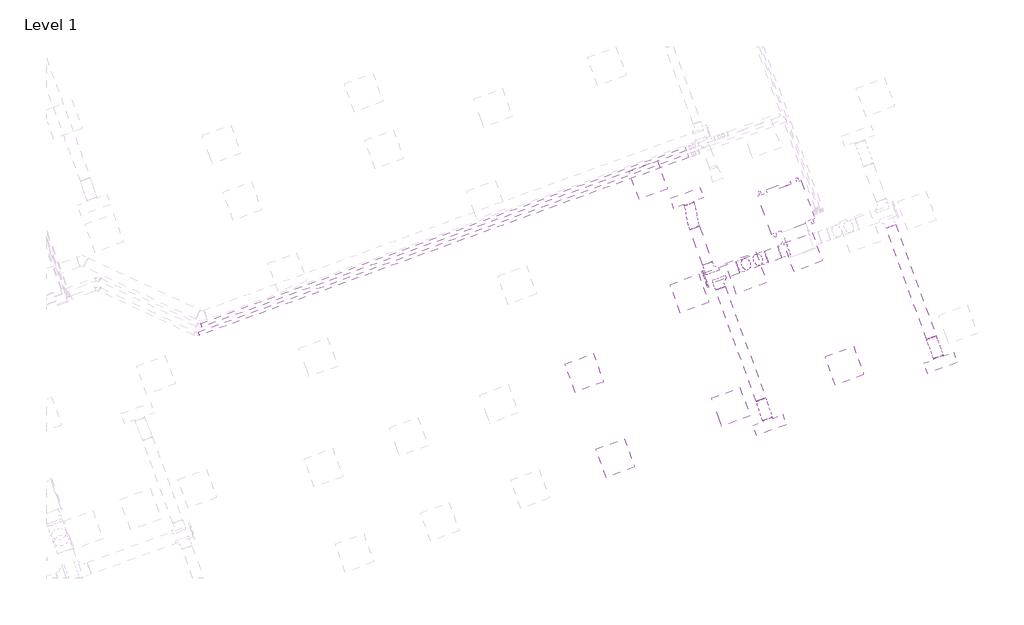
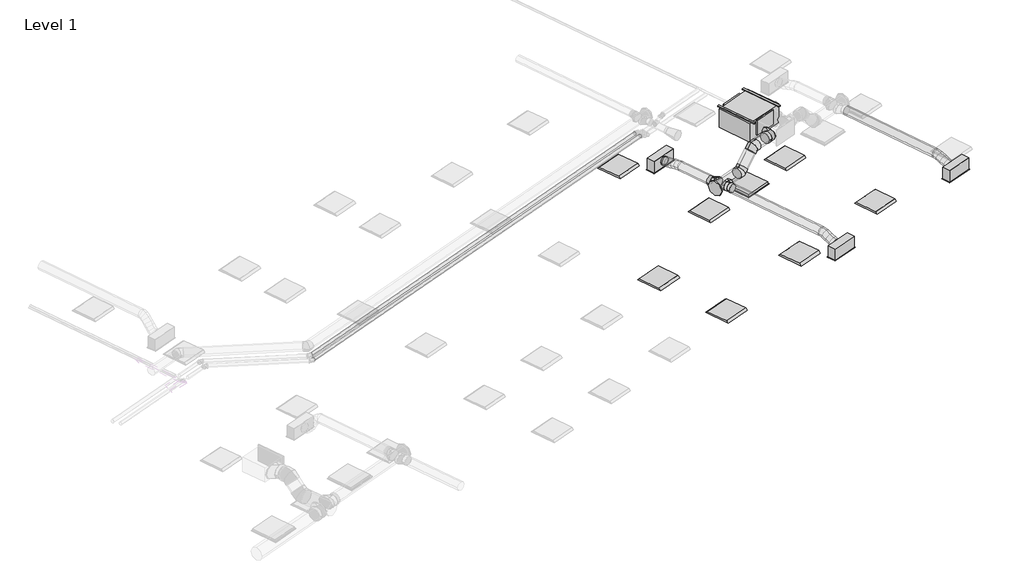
# One storey, part 25 of 30: 9 duct segments, 7 light fixtures, 6 duct fittings, 4 air terminals, 2 pipe segments, 1 proxy.
"""IFC4 building model written with IfcOpenShell, lengths in millimetres."""

from ifc_helpers import new_model, si_unit, point, frame, frame_2d, origin, place, context, project, spatial, circle_curve, ellipse_curve, trimmed, segment, composite_curve, outline, extrude, transform, mapped, element, save
from ifc_brep_helpers import plane_surface, cylinder_surface, advanced_brep
from components import return_grille_rectangular_hosted_standard_7b12617c, supply_diffuser_with_plenum_linear_slot_hosted_2b730595, fan_coil_unit_ceiling_ducted_chw_376_lps_945e770d, dw144_round_blank_end_standard_e3d0b58b, dw144_round_segmented_bend_slip_joint_standard_636bd9c1, dw144_round_shoe_branch_slip_joint1_standard_2_559552f4, dw144_round_shoe_branch_slip_joint1_standard_2_671412f0, light_fixture_1c7c1157, light_fixture_b730b5ca

model = new_model("IFC4")

# Units and contexts
model_context = context("Model", 3, world=origin())
ifc_project = project(units=[si_unit("LENGTHUNIT", "METRE", prefix="MILLI")], contexts=[model_context])

# Site, building, storey
site = spatial("IfcSite", under=ifc_project)
building = spatial("IfcBuilding", under=site)
storey = spatial("IfcBuildingStorey", under=building, Name="Level 1", Elevation=3900.0)

# Air terminals
placement = place(None, origin())
return_grille_rectangular_hosted_standard_shape = return_grille_rectangular_hosted_standard_7b12617c(model_context)
element("IfcAirTerminal", 1, ObjectType="Return Grille - Rectangular - Hosted : Standard", at=placement, inside=storey, context=model_context, shape_type="MappedRepresentation", body=[
    mapped(return_grille_rectangular_hosted_standard_shape, transform((60085.8279951, 13927.8982228, 6700.0), x_axis=(0.939692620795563, 0.3420201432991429, 0.0), y_axis=(0.3420201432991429, -0.939692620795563, 0.0), z_axis=(0.0, 0.0, -1.0))),
])
supply_diffuser_with_plenum_linear_slot_hosted_shape = supply_diffuser_with_plenum_linear_slot_hosted_2b730595(model_context)
element("IfcAirTerminal", 2, ObjectType="Supply Diffuser with Plenum - Linear Slot - Hosted : 24\" x 8\"-200 In Inlet  4-Slot", at=placement, inside=storey, context=model_context, shape_type="MappedRepresentation", body=[
    mapped(supply_diffuser_with_plenum_linear_slot_hosted_shape, transform((58909.9480529, 15418.2584463, 6700.0), x_axis=(-0.9396926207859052, -0.3420201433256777, 0.0), y_axis=(-0.3420201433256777, 0.9396926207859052, 0.0), z_axis=(0.0, 0.0, -1.0))),
])
element("IfcAirTerminal", 3, ObjectType="Supply Diffuser with Plenum - Linear Slot - Hosted : 24\" x 8\"-200 In Inlet  4-Slot", at=placement, inside=storey, context=model_context, shape_type="MappedRepresentation", body=[
    mapped(supply_diffuser_with_plenum_linear_slot_hosted_shape, transform((60551.6447408, 10907.7338665, 6700.0), x_axis=(0.939692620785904, 0.34202014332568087, 0.0), y_axis=(0.34202014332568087, -0.939692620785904, 0.0), z_axis=(0.0, 0.0, -1.0))),
])
element("IfcAirTerminal", 4, ObjectType="Supply Diffuser with Plenum - Linear Slot - Hosted : 24\" x 8\"-200 In Inlet  4-Slot", at=placement, inside=storey, context=model_context, shape_type="MappedRepresentation", body=[
    mapped(supply_diffuser_with_plenum_linear_slot_hosted_shape, transform((63945.5325789, 12143.008018, 6700.0), x_axis=(0.939692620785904, 0.34202014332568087, 0.0), y_axis=(0.34202014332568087, -0.939692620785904, 0.0), z_axis=(0.0, 0.0, -1.0))),
])

# Proxy
fan_coil_unit_ceiling_ducted_chw_376_lps_shape = fan_coil_unit_ceiling_ducted_chw_376_lps_945e770d(model_context)
element("IfcBuildingElementProxy", 5, Name="Fan Coil Unit - Ceiling Ducted - CHW : 376 LPS", ObjectType="Fan Coil Unit - Ceiling Ducted - CHW : 376 LPS", at=placement, inside=storey, context=model_context, shape_type="MappedRepresentation", body=[
    mapped(fan_coil_unit_ceiling_ducted_chw_376_lps_shape, transform((60591.3674268, 14691.8764142, 7115.575), x_axis=(0.9396926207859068, 0.34202014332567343, 0.0), y_axis=(-0.34202014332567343, 0.9396926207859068, 0.0), z_axis=(0.0, 0.0, 1.0))),
])

# Duct fittings
dw144_round_blank_end_standard_shape = dw144_round_blank_end_standard_e3d0b58b(model_context)
element("IfcDuctFitting", 6, ObjectType="DW144 Round Blank End : Standard", at=placement, inside=storey, context=model_context, shape_type="MappedRepresentation", body=[
    mapped(dw144_round_blank_end_standard_shape, transform((59281.7426902, 13810.5786489, 6972.2088531), x_axis=(-0.9396926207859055, -0.3420201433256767, 0.0), y_axis=(0.3420201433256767, -0.9396926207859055, 0.0), z_axis=(0.0, 0.0, 1.0))),
])
dw144_round_segmented_bend_slip_joint_standard_shape = dw144_round_segmented_bend_slip_joint_standard_636bd9c1(model_context)
element("IfcDuctFitting", 7, ObjectType="DW144 Round Segmented Bend - Slip Joint : Standard", at=placement, inside=storey, context=model_context, shape_type="MappedRepresentation", body=[
    mapped(dw144_round_segmented_bend_slip_joint_standard_shape, transform((60017.1840423, 14078.2574101, 6972.2088531), x_axis=(-0.6644630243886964, -0.24184476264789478, -0.7071067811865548), y_axis=(-0.6644630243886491, -0.24184476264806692, 0.7071067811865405), z_axis=(-0.34202014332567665, 0.9396926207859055, 0.0))),
])
element("IfcDuctFitting", 8, ObjectType="DW144 Round Segmented Bend - Slip Joint : Standard", at=placement, inside=storey, context=model_context, shape_type="MappedRepresentation", body=[
    mapped(dw144_round_segmented_bend_slip_joint_standard_shape, transform((60390.5860782, 14214.1646366, 7369.575), x_axis=(-0.9396926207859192, -0.3420201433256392, 0.0), y_axis=(0.0, 0.0, -1.0000000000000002), z_axis=(0.3420201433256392, -0.9396926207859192, 0.0))),
])
dw144_round_shoe_branch_slip_joint1_standard_2_shape = dw144_round_shoe_branch_slip_joint1_standard_2_559552f4(model_context)
element("IfcDuctFitting", 9, ObjectType="DW144 Round Shoe Branch - Slip Joint1 : Standard 2", at=placement, inside=storey, context=model_context, shape_type="MappedRepresentation", body=[
    mapped(dw144_round_shoe_branch_slip_joint1_standard_2_shape, transform((59369.8278219, 13975.6612364, 6972.2088531), x_axis=(-0.34202014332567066, 0.9396926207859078, 0.0), y_axis=(0.9396926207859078, 0.34202014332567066, 0.0), z_axis=(0.0, 0.0, -1.0))),
])
element("IfcDuctFitting", 10, ObjectType="DW144 Round Shoe Branch - Slip Joint1 : Standard 2", at=placement, inside=storey, context=model_context, shape_type="MappedRepresentation", body=[
    mapped(dw144_round_shoe_branch_slip_joint1_standard_2_shape, transform((59523.8850118, 13765.6890248, 6972.2088531), x_axis=(0.3420201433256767, -0.9396926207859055, 0.0), y_axis=(0.9396926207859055, 0.3420201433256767, 0.0), z_axis=(0.0, 0.0, 1.0))),
])
dw144_round_shoe_branch_slip_joint1_standard_2_2_shape = dw144_round_shoe_branch_slip_joint1_standard_2_671412f0(model_context)
element("IfcDuctFitting", 11, ObjectType="DW144 Round Shoe Branch - Slip Joint1 : Standard 2", at=placement, inside=storey, context=model_context, shape_type="MappedRepresentation", body=[
    mapped(dw144_round_shoe_branch_slip_joint1_standard_2_2_shape, transform((60916.1183876, 14405.4427543, 7369.575), x_axis=(-0.9396926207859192, -0.3420201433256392, 0.0), y_axis=(-0.3420201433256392, 0.9396926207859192, 0.0), z_axis=(0.0, 0.0, -1.0))),
])

# Duct segments
element("IfcDuctSegment", 12, ObjectType="DW144 Segmented Bend / Shoe Branch", at=placement, inside=storey, context=model_context, shape_type="SweptSolid", body=[
    extrude(outline(composite_curve([segment(trimmed(circle_curve(frame_2d((0.0, 125.0)), 125.0), [point((125.0, 125.0))], [point((0.0, 0.0))], False, "CARTESIAN"), True, "CONTINUOUS"), segment(trimmed(circle_curve(frame_2d((0.0, 125.0)), 125.0), [point((0.0, 0.0))], [point((-125.0, 125.0))], False, "CARTESIAN"), True, "CONTINUOUS"), segment(trimmed(circle_curve(frame_2d((0.0, 125.0)), 125.0), [point((-125.0, 125.0))], [point((0.0, 250.0))], False, "CARTESIAN"), True, "CONTINUOUS"), segment(trimmed(circle_curve(frame_2d((0.0, 125.0)), 125.0), [point((0.0, 250.0))], [point((125.0, 125.0))], False, "CARTESIAN"), True, "CONTINUOUS")], self_intersect=False)), frame((59281.7426902, 13810.5786489, 7097.2088531), z_axis=(0.9396926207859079, 0.3420201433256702, 0.0), x_axis=(0.3420201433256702, -0.9396926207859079, 0.0)), (0.0, 0.0, 1.0), 679.0869492),
])
element("IfcDuctSegment", 13, ObjectType="DW144 Segmented Bend / Shoe Branch", at=placement, inside=storey, context=model_context, shape_type="SweptSolid", body=[
    extrude(outline(composite_curve([segment(trimmed(circle_curve(frame_2d((0.0, -100.0)), 100.0), [point((-100.0, -100.0))], [point((0.0, 0.0))], False, "CARTESIAN"), True, "CONTINUOUS"), segment(trimmed(circle_curve(frame_2d((0.0, -100.0)), 100.0), [point((0.0, 0.0))], [point((100.0, -100.0))], False, "CARTESIAN"), True, "CONTINUOUS"), segment(trimmed(circle_curve(frame_2d((0.0, -100.0)), 100.0), [point((100.0, -100.0))], [point((0.0, -200.0))], False, "CARTESIAN"), True, "CONTINUOUS"), segment(trimmed(circle_curve(frame_2d((0.0, -100.0)), 100.0), [point((0.0, -200.0))], [point((-100.0, -100.0))], False, "CARTESIAN"), True, "CONTINUOUS")], self_intersect=False)), frame((63763.6810908, 12642.6408754, 6872.2088531), z_axis=(-0.34202014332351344, 0.9396926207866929, 0.0), x_axis=(0.9396926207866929, 0.34202014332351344, 0.0)), (0.0, 0.0, 1.0), 2355.4157214),
])
element("IfcDuctSegment", 14, ObjectType="DW144 Segmented Bend / Shoe Branch", at=placement, inside=storey, context=model_context, shape_type="SweptSolid", body=[
    extrude(outline(composite_curve([segment(trimmed(circle_curve(frame_2d((0.0, 100.0)), 100.0), [point((99.9999999, 100.0))], [point((0.0, 0.0))], False, "CARTESIAN"), True, "CONTINUOUS"), segment(trimmed(circle_curve(frame_2d((0.0, 100.0)), 100.0), [point((0.0, 0.0))], [point((-100.0, 100.0))], False, "CARTESIAN"), True, "CONTINUOUS"), segment(trimmed(circle_curve(frame_2d((0.0, 100.0)), 100.0), [point((-100.0, 100.0))], [point((0.0, 200.0))], False, "CARTESIAN"), True, "CONTINUOUS"), segment(trimmed(circle_curve(frame_2d((0.0, 100.0)), 100.0), [point((0.0, 200.0))], [point((99.9999999, 100.0))], False, "CARTESIAN"), True, "CONTINUOUS")], self_intersect=False)), frame((59318.5248004, 14116.6151296, 7072.2088531), z_axis=(-0.3420201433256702, 0.9396926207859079, 0.0), x_axis=(0.9396926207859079, 0.3420201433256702, 0.0)), (0.0, 0.0, 1.0), 750.0),
])
element("IfcDuctSegment", 15, ObjectType="DW144 Segmented Bend / Shoe Branch", at=placement, inside=storey, context=model_context, shape_type="SweptSolid", body=[
    extrude(outline(composite_curve([segment(trimmed(circle_curve(frame_2d((0.0, 100.0)), 100.0), [point((100.0, 100.0))], [point((0.0, 0.0))], False, "CARTESIAN"), True, "CONTINUOUS"), segment(trimmed(circle_curve(frame_2d((0.0, 100.0)), 100.0), [point((0.0, 0.0))], [point((-99.9999999, 100.0))], False, "CARTESIAN"), True, "CONTINUOUS"), segment(trimmed(circle_curve(frame_2d((0.0, 100.0)), 100.0), [point((-99.9999999, 100.0))], [point((0.0, 200.0))], False, "CARTESIAN"), True, "CONTINUOUS"), segment(trimmed(circle_curve(frame_2d((0.0, 100.0)), 100.0), [point((0.0, 200.0))], [point((100.0, 100.0))], False, "CARTESIAN"), True, "CONTINUOUS")], self_intersect=False)), frame((60380.7876559, 11411.3683594, 7072.2088531), z_axis=(-0.34202014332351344, 0.9396926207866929, 0.0), x_axis=(0.9396926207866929, 0.34202014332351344, 0.0)), (0.0, 0.0, 1.0), 2355.4157214),
])
element("IfcDuctSegment", 16, ObjectType="DW144 Segmented Bend / Shoe Branch", at=placement, inside=storey, context=model_context, shape_type="SweptSolid", body=[
    extrude(outline(composite_curve([segment(trimmed(circle_curve(frame_2d((0.0, -125.0)), 125.0), [point((-125.0, -125.0))], [point((0.0, 0.0))], False, "CARTESIAN"), True, "CONTINUOUS"), segment(trimmed(circle_curve(frame_2d((0.0, -125.0)), 125.0), [point((0.0, 0.0))], [point((125.0, -125.0))], False, "CARTESIAN"), True, "CONTINUOUS"), segment(trimmed(circle_curve(frame_2d((0.0, -125.0)), 125.0), [point((125.0, -125.0))], [point((0.0, -250.0))], False, "CARTESIAN"), True, "CONTINUOUS"), segment(trimmed(circle_curve(frame_2d((0.0, -125.0)), 125.0), [point((0.0, -250.0))], [point((-125.0, -125.0))], False, "CARTESIAN"), True, "CONTINUOUS")], self_intersect=False)), frame((60487.8944352, 14249.5819821, 7244.575), z_axis=(0.9396926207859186, 0.3420201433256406, 0.0), x_axis=(0.3420201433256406, -0.9396926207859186, 0.0)), (0.0, 0.0, 1.0), 280.7064117),
])
element("IfcDuctSegment", 17, ObjectType="DW144 Segmented Bend / Shoe Branch", at=placement, inside=storey, context=model_context, shape_type="SweptSolid", body=[
    extrude(outline(composite_curve([segment(trimmed(circle_curve(frame_2d((0.0, -125.0)), 125.0), [point((-57.2076922, -13.8591887))], [point((111.1408113, -67.7923077))], False, "CARTESIAN"), True, "CONTINUOUS"), segment(trimmed(circle_curve(frame_2d((0.0, -125.0)), 125.0), [point((111.1408113, -67.7923077))], [point((57.2076923, -236.1408114))], False, "CARTESIAN"), True, "CONTINUOUS"), segment(trimmed(circle_curve(frame_2d((0.0, -125.0)), 125.0), [point((57.2076923, -236.1408114))], [point((-111.1408114, -182.2076923))], False, "CARTESIAN"), True, "CONTINUOUS"), segment(trimmed(circle_curve(frame_2d((0.0, -125.0)), 125.0), [point((-111.1408114, -182.2076923))], [point((-57.2076922, -13.8591887))], False, "CARTESIAN"), True, "CONTINUOUS")], self_intersect=False)), frame((60085.9914414, 14221.5748363, 7004.9802107), z_axis=(0.6644630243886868, 0.24184476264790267, 0.7071067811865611), x_axis=(0.7473211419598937, -0.21503058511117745, -0.6287073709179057)), (0.0, 0.0, 1.0), 354.8538129),
])
element("IfcDuctSegment", 18, ObjectType="Flex - Round", at=placement, inside=storey, context=model_context, shape_type="AdvancedBrep", body=[
    advanced_brep(
    [(58968.0404308, 14787.1825808, 6972.2088531), (59062.0096929, 14821.3845951, 6872.2088531), (59155.9789549, 14855.5866095, 6972.2088531), (59062.0096929, 14821.3845951, 7072.2088531), (58962.5937503, 14802.1472125, 6972.2088531), (59060.2166004, 14826.3110763, 6872.2088531), (59153.0318582, 14863.6836912, 6972.2088531), (59055.4090081, 14839.5198274, 7072.2088531), (58859.415349, 15264.7154691, 6854.4), (58953.3846111, 15298.9174834, 6954.4), (59047.3538732, 15333.1194978, 6854.4), (58953.3846111, 15298.9174834, 6754.4), (58936.9027426, 14892.9748972, 6958.8929759), (59040.5253746, 14895.9272029, 6862.0027161), (59131.445571, 14939.9995957, 6961.0204889), (59027.822939, 14937.0472899, 7057.9107487), (58917.2478202, 14993.7337874, 6928.1346787), (59023.750444, 14981.9221185, 6835.7513633), (59113.7609804, 15030.6577872, 6933.345595), (59007.2583566, 15042.4694561, 7025.7289103), (58901.6333235, 15089.6442914, 6893.2632582), (59008.1359473, 15077.8326225, 6800.8799428), (59098.1464837, 15126.5682912, 6898.4741745), (58991.64386, 15138.3799601, 6990.8574898), (58883.9487329, 15180.3024829, 6865.5883642), (58987.5713649, 15183.2547887, 6768.6981044), (59078.4915613, 15227.3271814, 6867.7158773), (58974.8689293, 15224.3748757, 6964.606137), (58862.3624457, 15256.6183874, 6854.4), (58959.9852958, 15280.7822512, 6754.4), (59052.8005537, 15318.1548661, 6854.4), (58955.1777036, 15293.9910023, 6954.4)],
    [
        (0, 1, circle_curve(frame((59062.0096929, 14821.3845951, 6972.2088531), z_axis=(0.34202014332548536, -0.9396926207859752, 0.0), x_axis=(-0.9396926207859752, -0.34202014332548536, 0.0)), 100.0)),
        (1, 2, circle_curve(frame((59062.0096929, 14821.3845951, 6972.2088531), z_axis=(0.34202014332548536, -0.9396926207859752, 0.0), x_axis=(-0.9396926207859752, -0.34202014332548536, 0.0)), 100.0)),
        (2, 3, circle_curve(frame((59062.0096929, 14821.3845951, 6972.2088531), z_axis=(0.34202014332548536, -0.9396926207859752, 0.0), x_axis=(-0.9396926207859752, -0.34202014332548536, 0.0)), 100.0)),
        (3, 0, circle_curve(frame((59062.0096929, 14821.3845951, 6972.2088531), z_axis=(0.34202014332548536, -0.9396926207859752, 0.0), x_axis=(-0.9396926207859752, -0.34202014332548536, 0.0)), 100.0)),
        (0, 4),
        (4, 5, ellipse_curve(frame((59057.8128042, 14832.9154519, 6972.2088531), z_axis=(0.3067215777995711, -0.9492170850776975, 0.07006282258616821), x_axis=(0.45913462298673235, 0.08307664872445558, -0.8844736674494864)), 100.3132534, 100.0)),
        (5, 1),
        (5, 6, ellipse_curve(frame((59057.8128042, 14832.9154519, 6972.2088531), z_axis=(0.3067215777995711, -0.9492170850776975, 0.07006282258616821), x_axis=(0.45913462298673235, 0.08307664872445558, -0.8844736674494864)), 100.3132534, 100.0)),
        (6, 2),
        (6, 7, ellipse_curve(frame((59057.8128042, 14832.9154519, 6972.2088531), z_axis=(0.3067215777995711, -0.9492170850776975, 0.07006282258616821), x_axis=(0.45913462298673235, 0.08307664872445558, -0.8844736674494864)), 100.3132534, 100.0)),
        (7, 3),
        (7, 4, ellipse_curve(frame((59057.8128042, 14832.9154519, 6972.2088531), z_axis=(0.3067215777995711, -0.9492170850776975, 0.07006282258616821), x_axis=(0.45913462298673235, 0.08307664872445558, -0.8844736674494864)), 100.3132534, 100.0)),
        (8, 9, circle_curve(frame((58953.3846111, 15298.9174834, 6854.4), z_axis=(-0.3420201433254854, 0.9396926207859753, 0.0), x_axis=(-0.9396926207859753, -0.3420201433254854, 0.0)), 100.0)),
        (9, 10, circle_curve(frame((58953.3846111, 15298.9174834, 6854.4), z_axis=(-0.3420201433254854, 0.9396926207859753, 0.0), x_axis=(-0.9396926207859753, -0.3420201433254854, 0.0)), 100.0)),
        (10, 11, circle_curve(frame((58953.3846111, 15298.9174834, 6854.4), z_axis=(-0.3420201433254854, 0.9396926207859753, 0.0), x_axis=(-0.9396926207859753, -0.3420201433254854, 0.0)), 100.0)),
        (11, 8, circle_curve(frame((58953.3846111, 15298.9174834, 6854.4), z_axis=(-0.3420201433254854, 0.9396926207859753, 0.0), x_axis=(-0.9396926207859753, -0.3420201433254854, 0.0)), 100.0)),
        (4, 12),
        (12, 13, ellipse_curve(frame((59034.1741568, 14916.4872464, 6959.9567324), z_axis=(0.22728942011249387, -0.9499923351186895, 0.21413566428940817), x_axis=(0.5032119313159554, -0.07368424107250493, -0.8610159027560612)), 100.3679871, 100.0)),
        (13, 5),
        (13, 14, ellipse_curve(frame((59034.1741568, 14916.4872464, 6959.9567324), z_axis=(0.22728942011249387, -0.9499923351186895, 0.21413566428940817), x_axis=(0.5032119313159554, -0.07368424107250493, -0.8610159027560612)), 100.3679871, 100.0)),
        (14, 6),
        (14, 15, ellipse_curve(frame((59034.1741568, 14916.4872464, 6959.9567324), z_axis=(0.22728942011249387, -0.9499923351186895, 0.21413566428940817), x_axis=(0.5032119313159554, -0.07368424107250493, -0.8610159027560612)), 100.3679871, 100.0)),
        (15, 7),
        (15, 12, ellipse_curve(frame((59034.1741568, 14916.4872464, 6959.9567324), z_axis=(0.22728942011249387, -0.9499923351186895, 0.21413566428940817), x_axis=(0.5032119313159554, -0.07368424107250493, -0.8610159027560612)), 100.3679871, 100.0)),
        (12, 16),
        (16, 17, ellipse_curve(frame((59015.5044003, 15012.1957873, 6930.7401368), z_axis=(0.16740236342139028, -0.9350387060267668, 0.3125365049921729), x_axis=(0.5261740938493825, -0.1833505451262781, -0.8303754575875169)), 100.0467328, 100.0)),
        (17, 13),
        (17, 18, ellipse_curve(frame((59015.5044003, 15012.1957873, 6930.7401368), z_axis=(0.16740236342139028, -0.9350387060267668, 0.3125365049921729), x_axis=(0.5261740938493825, -0.1833505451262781, -0.8303754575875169)), 100.0467328, 100.0)),
        (18, 14),
        (18, 19, ellipse_curve(frame((59015.5044003, 15012.1957873, 6930.7401368), z_axis=(0.16740236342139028, -0.9350387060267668, 0.3125365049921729), x_axis=(0.5261740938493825, -0.1833505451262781, -0.8303754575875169)), 100.0467328, 100.0)),
        (19, 15),
        (19, 16, ellipse_curve(frame((59015.5044003, 15012.1957873, 6930.7401368), z_axis=(0.16740236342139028, -0.9350387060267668, 0.3125365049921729), x_axis=(0.5261740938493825, -0.1833505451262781, -0.8303754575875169)), 100.0467328, 100.0)),
        (16, 20),
        (20, 21, ellipse_curve(frame((58999.8899036, 15108.1062913, 6895.8687163), z_axis=(0.16740236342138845, -0.9350387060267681, 0.31253650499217), x_axis=(-0.5261740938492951, 0.18335054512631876, 0.8303754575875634)), 100.0467328, 100.0)),
        (21, 17),
        (21, 22, ellipse_curve(frame((58999.8899036, 15108.1062913, 6895.8687163), z_axis=(0.16740236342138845, -0.9350387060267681, 0.31253650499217), x_axis=(-0.5261740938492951, 0.18335054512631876, 0.8303754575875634)), 100.0467328, 100.0)),
        (22, 18),
        (22, 23, ellipse_curve(frame((58999.8899036, 15108.1062913, 6895.8687163), z_axis=(0.16740236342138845, -0.9350387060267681, 0.31253650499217), x_axis=(-0.5261740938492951, 0.18335054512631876, 0.8303754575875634)), 100.0467328, 100.0)),
        (23, 19),
        (23, 20, ellipse_curve(frame((58999.8899036, 15108.1062913, 6895.8687163), z_axis=(0.16740236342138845, -0.9350387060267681, 0.31253650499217), x_axis=(-0.5261740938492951, 0.18335054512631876, 0.8303754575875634)), 100.0467328, 100.0)),
        (20, 24),
        (24, 25, ellipse_curve(frame((58981.2201471, 15203.8148322, 6866.6521207), z_axis=(0.22728942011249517, -0.9499923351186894, 0.2141356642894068), x_axis=(-0.5032119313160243, 0.07368424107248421, 0.8610159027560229)), 100.3679871, 100.0)),
        (25, 21),
        (25, 26, ellipse_curve(frame((58981.2201471, 15203.8148322, 6866.6521207), z_axis=(0.22728942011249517, -0.9499923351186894, 0.2141356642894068), x_axis=(-0.5032119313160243, 0.07368424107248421, 0.8610159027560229)), 100.3679871, 100.0)),
        (26, 22),
        (26, 27, ellipse_curve(frame((58981.2201471, 15203.8148322, 6866.6521207), z_axis=(0.22728942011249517, -0.9499923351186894, 0.2141356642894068), x_axis=(-0.5032119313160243, 0.07368424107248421, 0.8610159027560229)), 100.3679871, 100.0)),
        (27, 23),
        (27, 24, ellipse_curve(frame((58981.2201471, 15203.8148322, 6866.6521207), z_axis=(0.22728942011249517, -0.9499923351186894, 0.2141356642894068), x_axis=(-0.5032119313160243, 0.07368424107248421, 0.8610159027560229)), 100.3679871, 100.0)),
        (24, 28),
        (28, 29, ellipse_curve(frame((58957.5814997, 15287.3866267, 6854.4), z_axis=(0.30672157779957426, -0.9492170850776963, 0.07006282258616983), x_axis=(-0.45913462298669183, -0.0830766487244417, 0.8844736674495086)), 100.3132534, 100.0)),
        (29, 25),
        (29, 30, ellipse_curve(frame((58957.5814997, 15287.3866267, 6854.4), z_axis=(0.30672157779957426, -0.9492170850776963, 0.07006282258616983), x_axis=(-0.45913462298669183, -0.0830766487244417, 0.8844736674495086)), 100.3132534, 100.0)),
        (30, 26),
        (30, 31, ellipse_curve(frame((58957.5814997, 15287.3866267, 6854.4), z_axis=(0.30672157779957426, -0.9492170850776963, 0.07006282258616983), x_axis=(-0.45913462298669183, -0.0830766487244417, 0.8844736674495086)), 100.3132534, 100.0)),
        (31, 27),
        (31, 28, ellipse_curve(frame((58957.5814997, 15287.3866267, 6854.4), z_axis=(0.30672157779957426, -0.9492170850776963, 0.07006282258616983), x_axis=(-0.45913462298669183, -0.0830766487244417, 0.8844736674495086)), 100.3132534, 100.0)),
        (28, 8),
        (11, 29),
        (10, 30),
        (9, 31),
    ],
    [
        plane_surface(frame((59062.0096929, 14821.3845951, 7072.2088531), z_axis=(0.3420201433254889, -0.9396926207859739, 0.0), x_axis=(0.9396926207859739, 0.3420201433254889, 0.0))),
        cylinder_surface(frame((59062.0096929, 14821.3845951, 6972.2088531), z_axis=(0.34202014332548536, -0.9396926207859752, 0.0), x_axis=(-0.9396926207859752, -0.34202014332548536, 0.0)), 100.0),
        plane_surface(frame((58953.3846111, 15298.9174834, 6954.4), z_axis=(-0.3420201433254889, 0.9396926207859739, 0.0), x_axis=(0.9396926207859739, 0.3420201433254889, 0.0))),
        cylinder_surface(frame((59057.8128042, 14832.9154519, 6972.2088531), z_axis=(0.26950738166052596, -0.9528132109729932, 0.1396880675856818), x_axis=(-0.9620387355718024, -0.27286519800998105, -0.00510440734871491)), 100.0),
        cylinder_surface(frame((59034.1741568, 14916.4872464, 6959.9567324), z_axis=(0.18340480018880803, -0.9402053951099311, 0.28701305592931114), x_axis=(-0.9799789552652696, -0.19788119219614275, -0.022006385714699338)), 100.0),
        cylinder_surface(frame((59015.5044003, 15012.1957873, 6930.7401368), z_axis=(0.15124353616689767, -0.9289984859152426, 0.33776797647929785), x_axis=(-0.9846990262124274, -0.17151687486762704, -0.030818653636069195)), 100.0),
        cylinder_surface(frame((58999.8899036, 15108.1062913, 6895.8687163), z_axis=(0.18340480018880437, -0.9402053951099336, 0.2870130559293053), x_axis=(-0.9799789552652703, -0.19788119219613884, -0.022006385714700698)), 100.0),
        cylinder_surface(frame((58981.2201471, 15203.8148322, 6866.6521207), z_axis=(0.26950738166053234, -0.952813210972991, 0.13968806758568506), x_axis=(-0.9620387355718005, -0.2728651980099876, -0.0051044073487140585)), 100.0),
        cylinder_surface(frame((58957.5814997, 15287.3866267, 6854.4), z_axis=(0.3420201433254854, -0.9396926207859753, 0.0), x_axis=(-0.9396926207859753, -0.3420201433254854, 0.0)), 100.0),
    ],
    [
        (0, [[1, 2, 3, 4]]),
        (1, [[-1, 5, 6, 7]]),
        (1, [[-2, -7, 8, 9]]),
        (1, [[-3, -9, 10, 11]]),
        (1, [[-4, -11, 12, -5]]),
        (2, [[13, 14, 15, 16]]),
        (3, [[-6, 17, 18, 19]]),
        (3, [[-8, -19, 20, 21]]),
        (3, [[-10, -21, 22, 23]]),
        (3, [[-12, -23, 24, -17]]),
        (4, [[-18, 25, 26, 27]]),
        (4, [[-20, -27, 28, 29]]),
        (4, [[-22, -29, 30, 31]]),
        (4, [[-24, -31, 32, -25]]),
        (5, [[-26, 33, 34, 35]]),
        (5, [[-28, -35, 36, 37]]),
        (5, [[-30, -37, 38, 39]]),
        (5, [[-32, -39, 40, -33]]),
        (6, [[-34, 41, 42, 43]]),
        (6, [[-36, -43, 44, 45]]),
        (6, [[-38, -45, 46, 47]]),
        (6, [[-40, -47, 48, -41]]),
        (7, [[-42, 49, 50, 51]]),
        (7, [[-44, -51, 52, 53]]),
        (7, [[-46, -53, 54, 55]]),
        (7, [[-48, -55, 56, -49]]),
        (8, [[-50, 57, -16, 58]]),
        (8, [[-52, -58, -15, 59]]),
        (8, [[-54, -59, -14, 60]]),
        (8, [[-56, -60, -13, -57]]),
    ],
),
])
element("IfcDuctSegment", 19, ObjectType="Flex - Round", at=placement, inside=storey, context=model_context, shape_type="AdvancedBrep", body=[
    advanced_brep(
    [(60474.756918, 11445.5703738, 6972.2088531), (60380.7876559, 11411.3683594, 6872.2088531), (60286.8183939, 11377.1663451, 6972.2088531), (60380.7876559, 11411.3683594, 7072.2088531), (60481.1493986, 11428.0071778, 6972.2088531), (60383.1622942, 11404.8440944, 6872.2088531), (60292.4849201, 11361.5976921, 6972.2088531), (60390.4720245, 11384.7607754, 7072.2088531), (60602.1774447, 11061.2768437, 6854.4), (60508.2081826, 11027.0748294, 6954.4), (60414.2389206, 10992.872815, 6854.4), (60508.2081826, 11027.0748294, 6754.4), (60509.1544546, 11345.6008463, 6953.3948712), (60404.4720792, 11342.1389457, 6857.8927986), (60319.280257, 11282.751022, 6954.2075685), (60423.9626325, 11286.2129226, 7049.7096411), (60539.6776323, 11249.8857126, 6912.5736092), (60432.3097282, 11254.8451413, 6820.6631242), (60349.3182063, 11188.5574762, 6914.035244), (60456.6861104, 11183.5980475, 7005.9457289), (60569.7155815, 11155.6921668, 6872.4012846), (60465.0332061, 11152.2302661, 6776.899212), (60379.841384, 11092.8423425, 6873.213982), (60484.5237594, 11096.3042431, 6968.7160546), (60596.5109184, 11076.8454967, 6854.4), (60498.5238141, 11053.6824133, 6754.4), (60407.84644, 11010.436011, 6854.4), (60505.8335444, 11033.5990943, 6954.4)],
    [
        (0, 1, circle_curve(frame((60380.7876559, 11411.3683594, 6972.2088531), z_axis=(-0.34202014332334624, 0.9396926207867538, 0.0), x_axis=(0.9396926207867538, 0.34202014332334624, 0.0)), 100.0)),
        (1, 2, circle_curve(frame((60380.7876559, 11411.3683594, 6972.2088531), z_axis=(-0.34202014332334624, 0.9396926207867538, 0.0), x_axis=(0.9396926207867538, 0.34202014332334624, 0.0)), 100.0)),
        (2, 3, circle_curve(frame((60380.7876559, 11411.3683594, 6972.2088531), z_axis=(-0.34202014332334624, 0.9396926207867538, 0.0), x_axis=(0.9396926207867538, 0.34202014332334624, 0.0)), 100.0)),
        (3, 0, circle_curve(frame((60380.7876559, 11411.3683594, 6972.2088531), z_axis=(-0.34202014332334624, 0.9396926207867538, 0.0), x_axis=(0.9396926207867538, 0.34202014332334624, 0.0)), 100.0)),
        (0, 4),
        (4, 5, ellipse_curve(frame((60386.8171594, 11394.8024349, 6972.2088531), z_axis=(-0.3301492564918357, 0.9379298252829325, 0.1062502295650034), x_axis=(-0.1288548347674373, 0.06672604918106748, -0.9894160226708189)), 100.5749435, 100.0)),
        (5, 1),
        (5, 6, ellipse_curve(frame((60386.8171594, 11394.8024349, 6972.2088531), z_axis=(-0.3301492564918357, 0.9379298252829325, 0.1062502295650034), x_axis=(-0.1288548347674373, 0.06672604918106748, -0.9894160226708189)), 100.5749435, 100.0)),
        (6, 2),
        (6, 7, ellipse_curve(frame((60386.8171594, 11394.8024349, 6972.2088531), z_axis=(-0.3301492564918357, 0.9379298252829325, 0.1062502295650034), x_axis=(-0.1288548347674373, 0.06672604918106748, -0.9894160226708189)), 100.5749435, 100.0)),
        (7, 3),
        (7, 4, ellipse_curve(frame((60386.8171594, 11394.8024349, 6972.2088531), z_axis=(-0.3301492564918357, 0.9379298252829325, 0.1062502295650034), x_axis=(-0.1288548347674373, 0.06672604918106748, -0.9894160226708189)), 100.5749435, 100.0)),
        (8, 9, circle_curve(frame((60508.2081826, 11027.0748294, 6854.4), z_axis=(0.34202014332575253, -0.9396926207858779, 0.0), x_axis=(0.9396926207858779, 0.34202014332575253, 0.0)), 100.0)),
        (9, 10, circle_curve(frame((60508.2081826, 11027.0748294, 6854.4), z_axis=(0.34202014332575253, -0.9396926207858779, 0.0), x_axis=(0.9396926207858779, 0.34202014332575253, 0.0)), 100.0)),
        (10, 11, circle_curve(frame((60508.2081826, 11027.0748294, 6854.4), z_axis=(0.34202014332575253, -0.9396926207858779, 0.0), x_axis=(0.9396926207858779, 0.34202014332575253, 0.0)), 100.0)),
        (11, 8, circle_curve(frame((60508.2081826, 11027.0748294, 6854.4), z_axis=(0.34202014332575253, -0.9396926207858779, 0.0), x_axis=(0.9396926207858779, 0.34202014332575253, 0.0)), 100.0)),
        (4, 12),
        (12, 13, ellipse_curve(frame((60414.2173558, 11314.1759342, 6953.8012198), z_axis=(-0.2991195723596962, 0.9074777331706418, 0.2949773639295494), x_axis=(-0.19007782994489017, 0.2462699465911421, -0.9503796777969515)), 100.3796227, 100.0)),
        (13, 5),
        (13, 14, ellipse_curve(frame((60414.2173558, 11314.1759342, 6953.8012198), z_axis=(-0.2991195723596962, 0.9074777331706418, 0.2949773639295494), x_axis=(-0.19007782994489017, 0.2462699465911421, -0.9503796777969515)), 100.3796227, 100.0)),
        (14, 6),
        (14, 15, ellipse_curve(frame((60414.2173558, 11314.1759342, 6953.8012198), z_axis=(-0.2991195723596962, 0.9074777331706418, 0.2949773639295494), x_axis=(-0.19007782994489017, 0.2462699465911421, -0.9503796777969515)), 100.3796227, 100.0)),
        (15, 7),
        (15, 12, ellipse_curve(frame((60414.2173558, 11314.1759342, 6953.8012198), z_axis=(-0.2991195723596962, 0.9074777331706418, 0.2949773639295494), x_axis=(-0.19007782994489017, 0.2462699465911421, -0.9503796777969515)), 100.3796227, 100.0)),
        (12, 16),
        (16, 17, circle_curve(frame((60444.4979193, 11219.2215944, 6913.3044266), z_axis=(-0.28147295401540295, 0.8826479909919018, 0.37643791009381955), x_axis=(0.9517971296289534, 0.30664118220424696, -0.007308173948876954)), 100.0)),
        (17, 13),
        (17, 18, circle_curve(frame((60444.4979193, 11219.2215944, 6913.3044266), z_axis=(-0.28147295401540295, 0.8826479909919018, 0.37643791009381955), x_axis=(0.9517971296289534, 0.30664118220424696, -0.007308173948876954)), 100.0)),
        (18, 14),
        (18, 19, circle_curve(frame((60444.4979193, 11219.2215944, 6913.3044266), z_axis=(-0.28147295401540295, 0.8826479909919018, 0.37643791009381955), x_axis=(0.9517971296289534, 0.30664118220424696, -0.007308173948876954)), 100.0)),
        (19, 15),
        (19, 16, circle_curve(frame((60444.4979193, 11219.2215944, 6913.3044266), z_axis=(-0.28147295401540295, 0.8826479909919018, 0.37643791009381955), x_axis=(0.9517971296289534, 0.30664118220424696, -0.007308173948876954)), 100.0)),
        (16, 20),
        (20, 21, ellipse_curve(frame((60474.7784828, 11124.2672546, 6872.8076333), z_axis=(-0.2991195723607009, 0.9074777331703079, 0.29497736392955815), x_axis=(0.19007782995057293, -0.24626994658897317, 0.9503796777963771)), 100.3796227, 100.0)),
        (21, 17),
        (21, 22, ellipse_curve(frame((60474.7784828, 11124.2672546, 6872.8076333), z_axis=(-0.2991195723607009, 0.9074777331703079, 0.29497736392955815), x_axis=(0.19007782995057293, -0.24626994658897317, 0.9503796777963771)), 100.3796227, 100.0)),
        (22, 18),
        (22, 23, ellipse_curve(frame((60474.7784828, 11124.2672546, 6872.8076333), z_axis=(-0.2991195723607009, 0.9074777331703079, 0.29497736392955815), x_axis=(0.19007782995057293, -0.24626994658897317, 0.9503796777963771)), 100.3796227, 100.0)),
        (23, 19),
        (23, 20, ellipse_curve(frame((60474.7784828, 11124.2672546, 6872.8076333), z_axis=(-0.2991195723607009, 0.9074777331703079, 0.29497736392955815), x_axis=(0.19007782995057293, -0.24626994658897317, 0.9503796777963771)), 100.3796227, 100.0)),
        (20, 24),
        (24, 25, ellipse_curve(frame((60502.1786792, 11043.6407538, 6854.4), z_axis=(-0.3301492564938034, 0.9379298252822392, 0.10625022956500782), x_axis=(0.12885483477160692, -0.06672604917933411, 0.9894160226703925)), 100.5749435, 100.0)),
        (25, 21),
        (25, 26, ellipse_curve(frame((60502.1786792, 11043.6407538, 6854.4), z_axis=(-0.3301492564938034, 0.9379298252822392, 0.10625022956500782), x_axis=(0.12885483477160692, -0.06672604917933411, 0.9894160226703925)), 100.5749435, 100.0)),
        (26, 22),
        (26, 27, ellipse_curve(frame((60502.1786792, 11043.6407538, 6854.4), z_axis=(-0.3301492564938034, 0.9379298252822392, 0.10625022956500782), x_axis=(0.12885483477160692, -0.06672604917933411, 0.9894160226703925)), 100.5749435, 100.0)),
        (27, 23),
        (27, 24, ellipse_curve(frame((60502.1786792, 11043.6407538, 6854.4), z_axis=(-0.3301492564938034, 0.9379298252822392, 0.10625022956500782), x_axis=(0.12885483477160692, -0.06672604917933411, 0.9894160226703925)), 100.5749435, 100.0)),
        (24, 8),
        (11, 25),
        (10, 26),
        (9, 27),
    ],
    [
        plane_surface(frame((60380.7876559, 11411.3683594, 6872.2088531), z_axis=(-0.34202014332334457, 0.9396926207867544, 0.0), x_axis=(0.9396926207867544, 0.34202014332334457, 0.0))),
        cylinder_surface(frame((60380.7876559, 11411.3683594, 6972.2088531), z_axis=(-0.34202014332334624, 0.9396926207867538, 0.0), x_axis=(0.9396926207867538, 0.34202014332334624, 0.0)), 100.0),
        plane_surface(frame((60508.2081826, 11027.0748294, 6754.4), z_axis=(0.34202014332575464, -0.9396926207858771, 0.0), x_axis=(0.9396926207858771, 0.34202014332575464, 0.0))),
        cylinder_surface(frame((60386.8171594, 11394.8024349, 6972.2088531), z_axis=(-0.3145037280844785, 0.9254435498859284, 0.21128568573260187), x_axis=(0.9466601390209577, 0.3222259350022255, -0.00224232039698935)), 100.0),
        cylinder_surface(frame((60414.2173558, 11314.1759342, 6953.8012198), z_axis=(-0.28147295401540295, 0.8826479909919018, 0.37643791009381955), x_axis=(0.9517971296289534, 0.30664118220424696, -0.007308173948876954)), 100.0),
        cylinder_surface(frame((60444.4979193, 11219.2215944, 6913.3044266), z_axis=(-0.28147295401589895, 0.8826479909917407, 0.37643791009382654), x_axis=(0.9517971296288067, 0.3066411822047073, -0.007308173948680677)), 100.0),
        cylinder_surface(frame((60474.7784828, 11124.2672546, 6872.8076333), z_axis=(-0.31450372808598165, 0.9254435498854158, 0.21128568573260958), x_axis=(0.946660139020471, 0.32222593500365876, -0.0022423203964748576)), 100.0),
        cylinder_surface(frame((60502.1786792, 11043.6407538, 6854.4), z_axis=(-0.34202014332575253, 0.9396926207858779, 0.0), x_axis=(0.9396926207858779, 0.34202014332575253, 0.0)), 100.0),
    ],
    [
        (0, [[1, 2, 3, 4]]),
        (1, [[-1, 5, 6, 7]]),
        (1, [[-2, -7, 8, 9]]),
        (1, [[-3, -9, 10, 11]]),
        (1, [[-4, -11, 12, -5]]),
        (2, [[13, 14, 15, 16]]),
        (3, [[-6, 17, 18, 19]]),
        (3, [[-8, -19, 20, 21]]),
        (3, [[-10, -21, 22, 23]]),
        (3, [[-12, -23, 24, -17]]),
        (4, [[-18, 25, 26, 27]]),
        (4, [[-20, -27, 28, 29]]),
        (4, [[-22, -29, 30, 31]]),
        (4, [[-24, -31, 32, -25]]),
        (5, [[-26, 33, 34, 35]]),
        (5, [[-28, -35, 36, 37]]),
        (5, [[-30, -37, 38, 39]]),
        (5, [[-32, -39, 40, -33]]),
        (6, [[-34, 41, 42, 43]]),
        (6, [[-36, -43, 44, 45]]),
        (6, [[-38, -45, 46, 47]]),
        (6, [[-40, -47, 48, -41]]),
        (7, [[-42, 49, -16, 50]]),
        (7, [[-44, -50, -15, 51]]),
        (7, [[-46, -51, -14, 52]]),
        (7, [[-48, -52, -13, -49]]),
    ],
),
])
element("IfcDuctSegment", 20, ObjectType="Flex - Round", at=placement, inside=storey, context=model_context, shape_type="AdvancedBrep", body=[
    advanced_brep(
    [(63857.6503529, 12676.8428897, 6972.2088531), (63763.6810908, 12642.6408754, 6872.2088531), (63669.7118287, 12608.4388611, 6972.2088531), (63763.6810908, 12642.6408754, 7072.2088531), (63863.6816461, 12660.2720476, 6972.2088531), (63766.0562533, 12636.11517, 6872.2088531), (63675.743122, 12591.868019, 6972.2088531), (63773.3685148, 12616.0248966, 7072.2088531), (63996.0652828, 12296.5509952, 6854.4), (63902.0960207, 12262.3489809, 6954.4), (63808.1267586, 12228.1469665, 6854.4), (63902.0960207, 12262.3489809, 6754.4), (63892.7927224, 12580.2900228, 6953.8012198), (63788.6917242, 12573.9247249, 6857.8959008), (63704.8541983, 12511.8859941, 6953.8012198), (63808.9551966, 12518.251292, 7049.7065388), (63926.8578178, 12486.6969425, 6913.3044266), (63820.0063037, 12487.8886248, 6820.6689376), (63738.9192937, 12418.2929138, 6913.3044266), (63845.7708078, 12417.1012314, 7005.9399155), (63960.9229132, 12393.1038621, 6872.8076333), (63856.8219149, 12386.7385642, 6776.9023143), (63772.984389, 12324.6998335, 6872.8076333), (63877.0853873, 12331.0651313, 6968.7129523), (63990.0339895, 12313.1218373, 6854.4), (63892.4085967, 12288.9649597, 6754.4), (63802.0954654, 12244.7178086, 6854.4), (63899.7208582, 12268.8746863, 6954.4)],
    [
        (0, 1, circle_curve(frame((63763.6810908, 12642.6408754, 6972.2088531), z_axis=(-0.3420201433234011, 0.9396926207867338, 0.0), x_axis=(0.9396926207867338, 0.3420201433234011, 0.0)), 100.0)),
        (1, 2, circle_curve(frame((63763.6810908, 12642.6408754, 6972.2088531), z_axis=(-0.3420201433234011, 0.9396926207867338, 0.0), x_axis=(0.9396926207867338, 0.3420201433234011, 0.0)), 100.0)),
        (2, 3, circle_curve(frame((63763.6810908, 12642.6408754, 6972.2088531), z_axis=(-0.3420201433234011, 0.9396926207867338, 0.0), x_axis=(0.9396926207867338, 0.3420201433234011, 0.0)), 100.0)),
        (3, 0, circle_curve(frame((63763.6810908, 12642.6408754, 6972.2088531), z_axis=(-0.3420201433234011, 0.9396926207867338, 0.0), x_axis=(0.9396926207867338, 0.3420201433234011, 0.0)), 100.0)),
        (0, 4),
        (4, 5, ellipse_curve(frame((63769.7123841, 12626.0700333, 6972.2088531), z_axis=(-0.3400825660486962, 0.9343691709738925, 0.10629252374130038), x_axis=(-0.0363541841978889, 0.09988230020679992, -0.9943349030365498)), 100.5697373, 100.0)),
        (5, 1),
        (5, 6, ellipse_curve(frame((63769.7123841, 12626.0700333, 6972.2088531), z_axis=(-0.3400825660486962, 0.9343691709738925, 0.10629252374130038), x_axis=(-0.0363541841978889, 0.09988230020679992, -0.9943349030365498)), 100.5697373, 100.0)),
        (6, 2),
        (6, 7, ellipse_curve(frame((63769.7123841, 12626.0700333, 6972.2088531), z_axis=(-0.3400825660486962, 0.9343691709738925, 0.10629252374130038), x_axis=(-0.0363541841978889, 0.09988230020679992, -0.9943349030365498)), 100.5697373, 100.0)),
        (7, 3),
        (7, 4, ellipse_curve(frame((63769.7123841, 12626.0700333, 6972.2088531), z_axis=(-0.3400825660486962, 0.9343691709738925, 0.10629252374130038), x_axis=(-0.0363541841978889, 0.09988230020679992, -0.9943349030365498)), 100.5697373, 100.0)),
        (8, 9, circle_curve(frame((63902.0960207, 12262.3489809, 6854.4), z_axis=(0.3420201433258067, -0.9396926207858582, 0.0), x_axis=(0.9396926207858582, 0.3420201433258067, 0.0)), 100.0)),
        (9, 10, circle_curve(frame((63902.0960207, 12262.3489809, 6854.4), z_axis=(0.3420201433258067, -0.9396926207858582, 0.0), x_axis=(0.9396926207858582, 0.3420201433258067, 0.0)), 100.0)),
        (10, 11, circle_curve(frame((63902.0960207, 12262.3489809, 6854.4), z_axis=(0.3420201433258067, -0.9396926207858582, 0.0), x_axis=(0.9396926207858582, 0.3420201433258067, 0.0)), 100.0)),
        (11, 8, circle_curve(frame((63902.0960207, 12262.3489809, 6854.4), z_axis=(0.3420201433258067, -0.9396926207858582, 0.0), x_axis=(0.9396926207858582, 0.3420201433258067, 0.0)), 100.0)),
        (4, 12),
        (12, 13, ellipse_curve(frame((63798.8234604, 12546.0880085, 6953.8012198), z_axis=(-0.3267864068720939, 0.8978382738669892, 0.2951221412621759), x_axis=(-0.10093771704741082, 0.2773240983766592, -0.955459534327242)), 100.3761181, 100.0)),
        (13, 5),
        (13, 14, ellipse_curve(frame((63798.8234604, 12546.0880085, 6953.8012198), z_axis=(-0.3267864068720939, 0.8978382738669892, 0.2951221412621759), x_axis=(-0.10093771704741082, 0.2773240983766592, -0.955459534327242)), 100.3761181, 100.0)),
        (14, 6),
        (14, 15, ellipse_curve(frame((63798.8234604, 12546.0880085, 6953.8012198), z_axis=(-0.3267864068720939, 0.8978382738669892, 0.2951221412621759), x_axis=(-0.10093771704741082, 0.2773240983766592, -0.955459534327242)), 100.3761181, 100.0)),
        (15, 7),
        (15, 12, ellipse_curve(frame((63798.8234604, 12546.0880085, 6953.8012198), z_axis=(-0.3267864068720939, 0.8978382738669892, 0.2951221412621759), x_axis=(-0.10093771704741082, 0.2773240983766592, -0.955459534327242)), 100.3761181, 100.0)),
        (12, 16),
        (16, 17, circle_curve(frame((63832.8885557, 12452.4949281, 6913.3044266), z_axis=(-0.31683203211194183, 0.8704888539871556, 0.37665185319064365), x_axis=(0.9396926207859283, 0.34202014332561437, 0.0)), 100.0)),
        (17, 13),
        (17, 18, circle_curve(frame((63832.8885557, 12452.4949281, 6913.3044266), z_axis=(-0.31683203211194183, 0.8704888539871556, 0.37665185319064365), x_axis=(0.9396926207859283, 0.34202014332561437, 0.0)), 100.0)),
        (18, 14),
        (18, 19, circle_curve(frame((63832.8885557, 12452.4949281, 6913.3044266), z_axis=(-0.31683203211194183, 0.8704888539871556, 0.37665185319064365), x_axis=(0.9396926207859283, 0.34202014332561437, 0.0)), 100.0)),
        (19, 15),
        (19, 16, circle_curve(frame((63832.8885557, 12452.4949281, 6913.3044266), z_axis=(-0.31683203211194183, 0.8704888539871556, 0.37665185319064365), x_axis=(0.9396926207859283, 0.34202014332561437, 0.0)), 100.0)),
        (16, 20),
        (20, 21, ellipse_curve(frame((63866.9536511, 12358.9018478, 6872.8076333), z_axis=(-0.32678640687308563, 0.8978382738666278, 0.29512214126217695), x_axis=(0.10093771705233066, -0.27732409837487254, 0.9554595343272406)), 100.3761181, 100.0)),
        (21, 17),
        (21, 22, ellipse_curve(frame((63866.9536511, 12358.9018478, 6872.8076333), z_axis=(-0.32678640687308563, 0.8978382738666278, 0.29512214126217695), x_axis=(0.10093771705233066, -0.27732409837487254, 0.9554595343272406)), 100.3761181, 100.0)),
        (22, 18),
        (22, 23, ellipse_curve(frame((63866.9536511, 12358.9018478, 6872.8076333), z_axis=(-0.32678640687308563, 0.8978382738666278, 0.29512214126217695), x_axis=(0.10093771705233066, -0.27732409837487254, 0.9554595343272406)), 100.3761181, 100.0)),
        (23, 19),
        (23, 20, ellipse_curve(frame((63866.9536511, 12358.9018478, 6872.8076333), z_axis=(-0.32678640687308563, 0.8978382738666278, 0.29512214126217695), x_axis=(0.10093771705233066, -0.27732409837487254, 0.9554595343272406)), 100.3761181, 100.0)),
        (20, 24),
        (24, 25, ellipse_curve(frame((63896.0647274, 12278.919823, 6854.4), z_axis=(-0.34008256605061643, 0.9343691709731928, 0.10629252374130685), x_axis=(0.03635418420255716, -0.09988230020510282, 0.9943349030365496)), 100.5697373, 100.0)),
        (25, 21),
        (25, 26, ellipse_curve(frame((63896.0647274, 12278.919823, 6854.4), z_axis=(-0.34008256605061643, 0.9343691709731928, 0.10629252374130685), x_axis=(0.03635418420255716, -0.09988230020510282, 0.9943349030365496)), 100.5697373, 100.0)),
        (26, 22),
        (26, 27, ellipse_curve(frame((63896.0647274, 12278.919823, 6854.4), z_axis=(-0.34008256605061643, 0.9343691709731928, 0.10629252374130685), x_axis=(0.03635418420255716, -0.09988230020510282, 0.9943349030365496)), 100.5697373, 100.0)),
        (27, 23),
        (27, 24, ellipse_curve(frame((63896.0647274, 12278.919823, 6854.4), z_axis=(-0.34008256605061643, 0.9343691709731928, 0.10629252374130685), x_axis=(0.03635418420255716, -0.09988230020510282, 0.9943349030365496)), 100.5697373, 100.0)),
        (24, 8),
        (11, 25),
        (10, 26),
        (9, 27),
    ],
    [
        plane_surface(frame((63763.6810908, 12642.6408754, 6872.2088531), z_axis=(-0.34202014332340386, 0.9396926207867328, 0.0), x_axis=(0.9396926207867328, 0.34202014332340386, 0.0))),
        cylinder_surface(frame((63763.6810908, 12642.6408754, 6972.2088531), z_axis=(-0.3420201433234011, 0.9396926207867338, 0.0), x_axis=(0.9396926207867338, 0.3420201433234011, 0.0)), 100.0),
        plane_surface(frame((63902.0960207, 12262.3489809, 6754.4), z_axis=(0.34202014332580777, -0.9396926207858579, 0.0), x_axis=(0.9396926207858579, 0.34202014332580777, 0.0))),
        cylinder_surface(frame((63769.7123841, 12626.0700333, 6972.2088531), z_axis=(-0.33429178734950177, 0.9184591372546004, 0.21138073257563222), x_axis=(0.939692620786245, 0.342020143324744, 0.0)), 100.0),
        cylinder_surface(frame((63798.8234604, 12546.0880085, 6953.8012198), z_axis=(-0.31683203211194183, 0.8704888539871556, 0.37665185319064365), x_axis=(0.9396926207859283, 0.34202014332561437, 0.0)), 100.0),
        cylinder_surface(frame((63832.8885557, 12452.4949281, 6913.3044266), z_axis=(-0.3168320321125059, 0.8704888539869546, 0.3766518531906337), x_axis=(0.9396926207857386, 0.34202014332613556, 0.0)), 100.0),
        cylinder_surface(frame((63866.9536511, 12358.9018478, 6872.8076333), z_axis=(-0.33429178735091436, 0.9184591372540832, 0.2113807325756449), x_axis=(0.9396926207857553, 0.3420201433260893, 0.0)), 100.0),
        cylinder_surface(frame((63896.0647274, 12278.919823, 6854.4), z_axis=(-0.3420201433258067, 0.9396926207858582, 0.0), x_axis=(0.9396926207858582, 0.3420201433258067, 0.0)), 100.0),
    ],
    [
        (0, [[1, 2, 3, 4]]),
        (1, [[-1, 5, 6, 7]]),
        (1, [[-2, -7, 8, 9]]),
        (1, [[-3, -9, 10, 11]]),
        (1, [[-4, -11, 12, -5]]),
        (2, [[13, 14, 15, 16]]),
        (3, [[-6, 17, 18, 19]]),
        (3, [[-8, -19, 20, 21]]),
        (3, [[-10, -21, 22, 23]]),
        (3, [[-12, -23, 24, -17]]),
        (4, [[-18, 25, 26, 27]]),
        (4, [[-20, -27, 28, 29]]),
        (4, [[-22, -29, 30, 31]]),
        (4, [[-24, -31, 32, -25]]),
        (5, [[-26, 33, 34, 35]]),
        (5, [[-28, -35, 36, 37]]),
        (5, [[-30, -37, 38, 39]]),
        (5, [[-32, -39, 40, -33]]),
        (6, [[-34, 41, 42, 43]]),
        (6, [[-36, -43, 44, 45]]),
        (6, [[-38, -45, 46, 47]]),
        (6, [[-40, -47, 48, -41]]),
        (7, [[-42, 49, -16, 50]]),
        (7, [[-44, -50, -15, 51]]),
        (7, [[-46, -51, -14, 52]]),
        (7, [[-48, -52, -13, -49]]),
    ],
),
])

# Light fixtures
light_fixture_shape = light_fixture_1c7c1157(model_context)
element("IfcLightFixture", 21, ObjectType="ELEKTRA Plain Recessed Lighting Fixture : 24\" x 24\" - 230", at=placement, inside=storey, context=model_context, shape_type="MappedRepresentation", body=[
    mapped(light_fixture_shape, transform((57308.0260374, 9867.0925844, 6700.0), x_axis=(0.9396926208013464, 0.3420201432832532, 0.0), y_axis=(0.3420201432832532, -0.9396926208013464, 0.0), z_axis=(0.0, 0.0, -1.0))),
])
element("IfcLightFixture", 22, ObjectType="ELEKTRA Plain Recessed Lighting Fixture : 24\" x 24\" - 230", at=placement, inside=storey, context=model_context, shape_type="MappedRepresentation", body=[
    mapped(light_fixture_shape, transform((56692.3897795, 11558.5393018, 6700.0), x_axis=(0.9396926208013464, 0.3420201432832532, 0.0), y_axis=(0.3420201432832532, -0.9396926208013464, 0.0), z_axis=(0.0, 0.0, -1.0))),
])
element("IfcLightFixture", 23, ObjectType="ELEKTRA Plain Recessed Lighting Fixture : 24\" x 24\" - 230", at=placement, inside=storey, context=model_context, shape_type="MappedRepresentation", body=[
    mapped(light_fixture_shape, transform((61037.729285, 13957.9341575, 6700.0), x_axis=(0.9396926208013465, 0.342020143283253, 0.0), y_axis=(0.342020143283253, -0.9396926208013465, 0.0), z_axis=(0.0, 0.0, -1.0))),
])
element("IfcLightFixture", 24, ObjectType="ELEKTRA Plain Recessed Lighting Fixture : 24\" x 24\" - 230", at=placement, inside=storey, context=model_context, shape_type="MappedRepresentation", body=[
    mapped(light_fixture_shape, transform((61858.5776288, 11702.6718676, 6700.0), x_axis=(0.9396926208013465, 0.342020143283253, 0.0), y_axis=(0.342020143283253, -0.9396926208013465, 0.0), z_axis=(0.0, 0.0, -1.0))),
])
element("IfcLightFixture", 25, ObjectType="ELEKTRA Plain Recessed Lighting Fixture : 24\" x 24\" - 230", at=placement, inside=storey, context=model_context, shape_type="MappedRepresentation", body=[
    mapped(light_fixture_shape, transform((57961.6186512, 15392.3481036, 6700.0), x_axis=(0.9396926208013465, 0.342020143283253, 0.0), y_axis=(0.342020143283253, -0.9396926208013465, 0.0), z_axis=(0.0, 0.0, -1.0))),
])
element("IfcLightFixture", 26, ObjectType="ELEKTRA Plain Recessed Lighting Fixture : 24\" x 24\" - 230", at=placement, inside=storey, context=model_context, shape_type="MappedRepresentation", body=[
    mapped(light_fixture_shape, transform((58782.466995, 13137.0858136, 6700.0), x_axis=(0.9396926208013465, 0.342020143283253, 0.0), y_axis=(0.342020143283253, -0.9396926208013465, 0.0), z_axis=(0.0, 0.0, -1.0))),
])
light_fixture_2_shape = light_fixture_b730b5ca(model_context)
element("IfcLightFixture", 27, ObjectType="ELEKTRA EM Recessed Lighting Fixture : 24\" x 24\" - 230", at=placement, inside=storey, context=model_context, shape_type="MappedRepresentation", body=[
    mapped(light_fixture_2_shape, transform((59603.3153389, 10881.8235237, 6700.0), x_axis=(0.9396926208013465, 0.342020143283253, 0.0), y_axis=(0.342020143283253, -0.9396926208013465, 0.0), z_axis=(0.0, 0.0, -1.0))),
])

# Pipe segments
element("IfcPipeSegment", 28, ObjectType="Carbon Steel - Threaded", at=placement, inside=storey, context=model_context, shape_type="SweptSolid", body=[
    extrude(outline(composite_curve([segment(trimmed(circle_curve(frame_2d((0.0, 38.3)), 38.3), [point((38.3, 38.3))], [point((0.0, 0.0))], False, "CARTESIAN"), True, "CONTINUOUS"), segment(trimmed(circle_curve(frame_2d((0.0, 38.3)), 38.3), [point((0.0, 0.0))], [point((-38.3, 38.3))], False, "CARTESIAN"), True, "CONTINUOUS"), segment(trimmed(circle_curve(frame_2d((0.0, 38.3)), 38.3), [point((-38.3, 38.3))], [point((0.0, 76.6))], False, "CARTESIAN"), True, "CONTINUOUS"), segment(trimmed(circle_curve(frame_2d((0.0, 38.3)), 38.3), [point((0.0, 76.6))], [point((38.3, 38.3))], False, "CARTESIAN"), True, "CONTINUOUS")], self_intersect=False)), frame((49272.3059646, 12892.1977199, 6938.3), z_axis=(0.9396926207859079, 0.3420201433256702, 0.0), x_axis=(0.3420201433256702, -0.9396926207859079, 0.0)), (0.0, 0.0, 1.0), 10230.3268097),
])
element("IfcPipeSegment", 29, ObjectType="Carbon Steel - Threaded", at=placement, inside=storey, context=model_context, shape_type="SweptSolid", body=[
    extrude(outline(composite_curve([segment(trimmed(circle_curve(frame_2d((0.0, 38.3)), 38.3), [point((38.3, 38.3))], [point((0.0, 0.0))], False, "CARTESIAN"), True, "CONTINUOUS"), segment(trimmed(circle_curve(frame_2d((0.0, 38.3)), 38.3), [point((0.0, 0.0))], [point((-38.2999999, 38.3))], False, "CARTESIAN"), True, "CONTINUOUS"), segment(trimmed(circle_curve(frame_2d((0.0, 38.3)), 38.3), [point((-38.2999999, 38.3))], [point((0.0, 76.6))], False, "CARTESIAN"), True, "CONTINUOUS"), segment(trimmed(circle_curve(frame_2d((0.0, 38.3)), 38.3), [point((0.0, 76.6))], [point((38.3, 38.3))], False, "CARTESIAN"), True, "CONTINUOUS")], self_intersect=False)), frame((49225.0072679, 12723.2508158, 6938.3), z_axis=(0.9396926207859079, 0.3420201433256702, 0.0), x_axis=(0.3420201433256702, -0.9396926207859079, 0.0)), (0.0, 0.0, 1.0), 10332.5562903),
])

save(model, "model.ifc")
